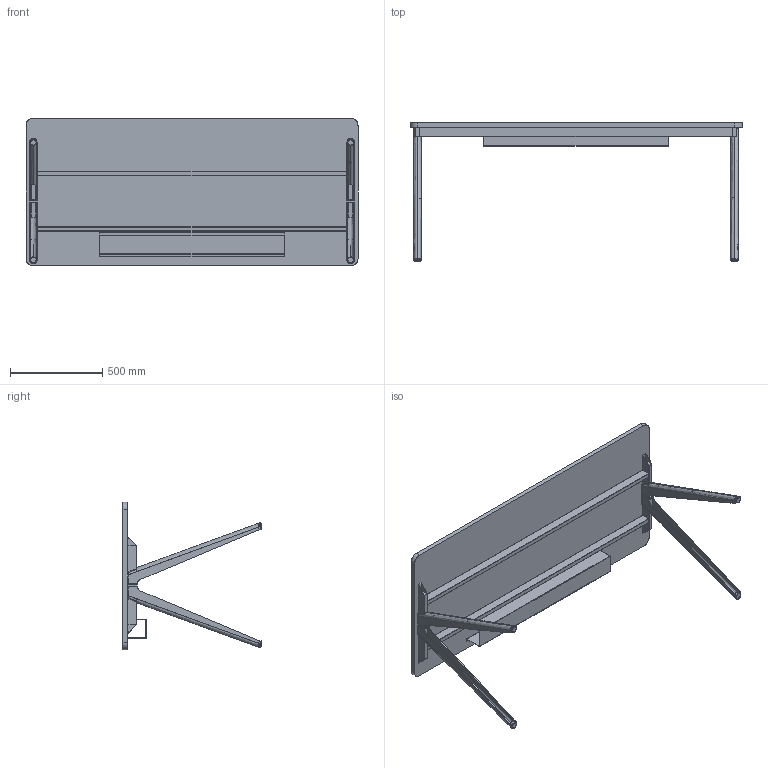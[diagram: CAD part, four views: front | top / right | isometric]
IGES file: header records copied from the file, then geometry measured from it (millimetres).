
Start section: SolidWorks IGES file using analytic representation for surfaces
Global section: file name: C:\Users\simone.cerana\OneDrive - Gruppo Tecno\Desktop\CHINA\DISEGNI DI SERIE\ASSIEMI LISTINO\HORIZON LISTINO\FULL OPTIONAL\HO1808FO.IGS; native system: SolidWorks 2024; preprocessor: SolidWorks 2024; author: simone.cerana; date: 260512.145434; units: millimetre
Bounding box: 1800 x 750.58 x 800 mm (x, y, z)
Surface area: 4854405 mm2 (no closed solid volume)
Topology: 0 solids, 0 shells, 292 faces, 3808 edges, 3808 vertices
Faces by surface type: bspline 198, revolution 94
